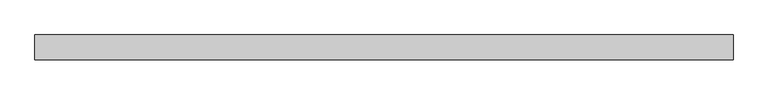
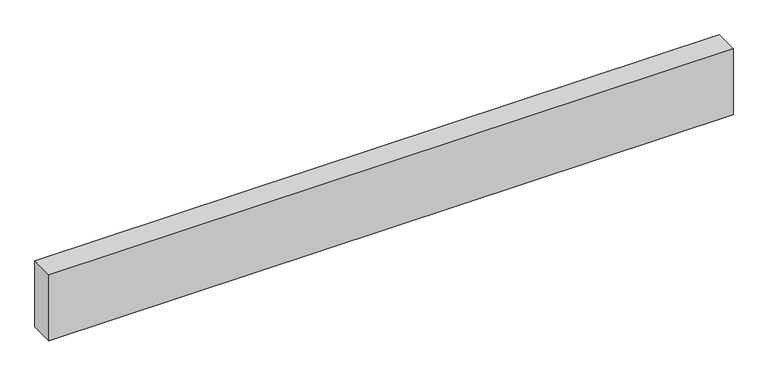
"""IFC4 building model written with IfcOpenShell, lengths in millimetres: proxy geometry."""

from ifc_helpers import new_model, si_unit, frame, origin, place, context, project, spatial, polyline, outline, extrude, source, transform, mapped, element, save


def structural_framing_cfc1f98a(model_context):
    return source(origin(), model_context, "Body", "SweptSolid", [
        extrude(outline(polyline([(-1969.7, -70.0), (-1969.7, 70.0), (1969.7, 70.0), (1969.7, -70.0), (-1969.7, -70.0)])), frame((0.0, 0.0, -400.0), z_axis=(0.0, 0.0, 1.0), x_axis=(1.0, 0.0, 0.0)), (0.0, 0.0, 1.0), 400.0),
    ])


if __name__ == "__main__":
    model = new_model("IFC4")
    model_context = context("Model", 3, world=origin())
    ifc_project = project(units=[si_unit("LENGTHUNIT", "METRE", prefix="MILLI")], contexts=[model_context])
    site = spatial("IfcSite", under=ifc_project)
    building = spatial("IfcBuilding", under=site)
    placement = place(None, origin())
    structural_framing_shape = structural_framing_cfc1f98a(model_context)
    element("IfcBuildingElementProxy", 1, Name="Structural Framing", at=placement, inside=building, context=model_context, shape_type="MappedRepresentation", body=[
        mapped(structural_framing_shape, transform((0.0, 0.0, 0.0), x_axis=(1.0, 0.0, 0.0), y_axis=(0.0, 1.0, 0.0), z_axis=(0.0, 0.0, 1.0))),
    ])
    save(model, "model.ifc")
